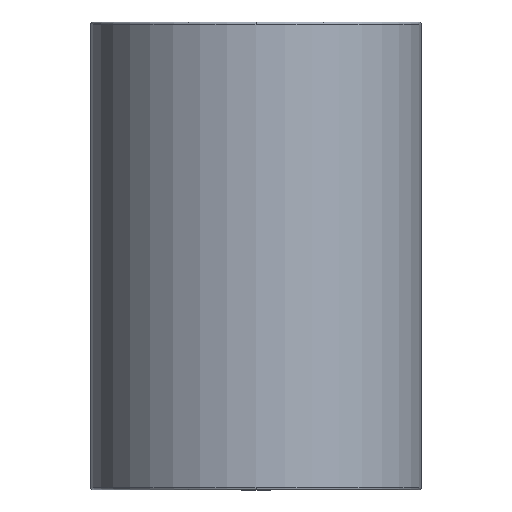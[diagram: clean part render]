
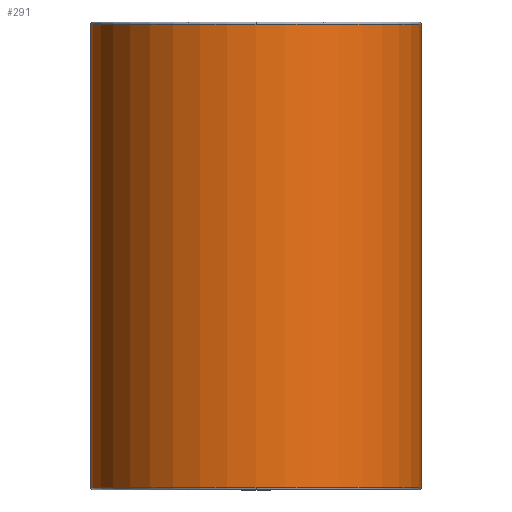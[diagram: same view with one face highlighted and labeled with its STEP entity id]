
A CAD part, front view. The second image highlights one B-rep face of the part: STEP entity #291.
In plain terms, the highlighted cylindrical face has radius 29.625 mm (diameter 59.25 mm), a partial arc.
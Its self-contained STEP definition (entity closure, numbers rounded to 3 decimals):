
#196=CARTESIAN_POINT('',(0.0,-29.625,48.1));
#197=VERTEX_POINT('',#196);
#223=CARTESIAN_POINT('',(-29.625,0.,48.1));
#224=VERTEX_POINT('',#223);
#232=CARTESIAN_POINT('',(0.0,0.,48.1));
#233=DIRECTION('',(0.0,0.0,1.0));
#234=DIRECTION('',(1.0,0.0,0.0));
#235=AXIS2_PLACEMENT_3D('',#232,#233,#234);
#236=CIRCLE('',#235,29.625);
#237=EDGE_CURVE('',#224,#197,#236,.T.);
#242=CARTESIAN_POINT('',(0.0,0.,6.5));
#243=DIRECTION('',(0.0,0.,1.0));
#244=DIRECTION('',(1.0,0.0,0.0));
#245=AXIS2_PLACEMENT_3D('',#242,#243,#244);
#246=CYLINDRICAL_SURFACE('',#245,29.625);
#247=CARTESIAN_POINT('',(29.625,0.,48.1));
#248=VERTEX_POINT('',#247);
#249=CARTESIAN_POINT('',(29.625,0.,-35.1));
#250=VERTEX_POINT('',#249);
#251=CARTESIAN_POINT('',(29.625,0.,48.1));
#252=DIRECTION('',(0.0,0.0,-1.0));
#253=VECTOR('',#252,83.2);
#254=LINE('',#251,#253);
#255=EDGE_CURVE('',#248,#250,#254,.T.);
#256=ORIENTED_EDGE('',*,*,#255,.F.);
#257=CARTESIAN_POINT('',(0.0,0.,48.1));
#258=DIRECTION('',(0.0,0.0,1.0));
#259=DIRECTION('',(1.0,0.0,0.0));
#260=AXIS2_PLACEMENT_3D('',#257,#258,#259);
#261=CIRCLE('',#260,29.625);
#262=EDGE_CURVE('',#197,#248,#261,.T.);
#263=ORIENTED_EDGE('',*,*,#262,.F.);
#264=ORIENTED_EDGE('',*,*,#237,.F.);
#265=CARTESIAN_POINT('',(-29.625,0.,-35.1));
#266=VERTEX_POINT('',#265);
#267=CARTESIAN_POINT('',(-29.625,0.,48.1));
#268=DIRECTION('',(0.0,0.0,-1.0));
#269=VECTOR('',#268,83.2);
#270=LINE('',#267,#269);
#271=EDGE_CURVE('',#224,#266,#270,.T.);
#272=ORIENTED_EDGE('',*,*,#271,.T.);
#273=CARTESIAN_POINT('',(0.0,-29.625,-35.1));
#274=VERTEX_POINT('',#273);
#275=CARTESIAN_POINT('',(0.0,0.,-35.1));
#276=DIRECTION('',(0.0,0.0,1.0));
#277=DIRECTION('',(1.0,0.0,0.0));
#278=AXIS2_PLACEMENT_3D('',#275,#276,#277);
#279=CIRCLE('',#278,29.625);
#280=EDGE_CURVE('',#266,#274,#279,.T.);
#281=ORIENTED_EDGE('',*,*,#280,.T.);
#282=CARTESIAN_POINT('',(0.0,0.,-35.1));
#283=DIRECTION('',(0.0,0.0,1.0));
#284=DIRECTION('',(1.0,0.0,0.0));
#285=AXIS2_PLACEMENT_3D('',#282,#283,#284);
#286=CIRCLE('',#285,29.625);
#287=EDGE_CURVE('',#274,#250,#286,.T.);
#288=ORIENTED_EDGE('',*,*,#287,.T.);
#289=EDGE_LOOP('',(#256,#263,#264,#272,#281,#288));
#290=FACE_OUTER_BOUND('',#289,.T.);
#291=ADVANCED_FACE('',(#290),#246,.T.);
